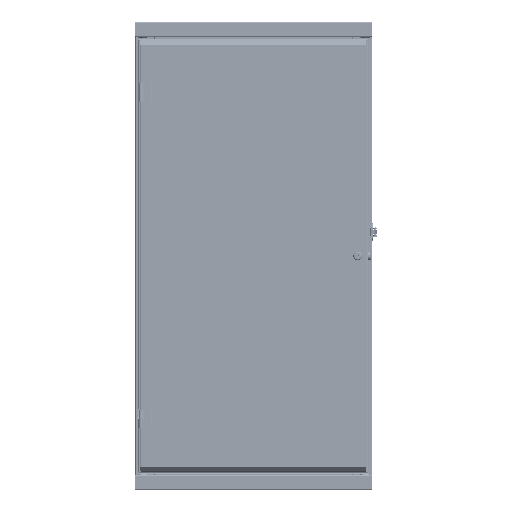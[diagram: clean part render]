
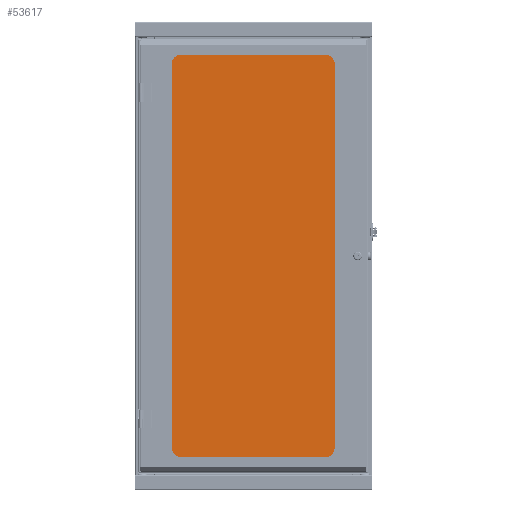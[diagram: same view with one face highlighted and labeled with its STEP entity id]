
A CAD part, front view. The second image highlights one B-rep face of the part: STEP entity #53617.
In plain terms, the highlighted planar face has unit normal (0, -1, 0).
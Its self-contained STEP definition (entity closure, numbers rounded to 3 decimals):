
#4329=LINE('',#90557,#9179);
#4333=LINE('',#90566,#9183);
#4336=LINE('',#90572,#9186);
#4339=LINE('',#90578,#9189);
#9179=VECTOR('',#71893,1000.);
#9183=VECTOR('',#71899,1000.);
#9186=VECTOR('',#71904,1000.);
#9189=VECTOR('',#71909,1000.);
#23628=ORIENTED_EDGE('',*,*,#32606,.T.);
#23629=ORIENTED_EDGE('',*,*,#32610,.T.);
#23630=ORIENTED_EDGE('',*,*,#32613,.T.);
#23631=ORIENTED_EDGE('',*,*,#32616,.T.);
#32606=EDGE_CURVE('',#38193,#38194,#4329,.T.);
#32610=EDGE_CURVE('',#38194,#38197,#4333,.T.);
#32613=EDGE_CURVE('',#38197,#38199,#4336,.T.);
#32616=EDGE_CURVE('',#38199,#38193,#4339,.T.);
#38193=VERTEX_POINT('',#90558);
#38194=VERTEX_POINT('',#90559);
#38197=VERTEX_POINT('',#90567);
#38199=VERTEX_POINT('',#90573);
#44836=EDGE_LOOP('',(#23628,#23629,#23630,#23631));
#48943=FACE_BOUND('',#44836,.T.);
#50964=PLANE('',#58737);
#53617=ADVANCED_FACE('',(#48943),#50964,.T.);
#58737=AXIS2_PLACEMENT_3D('',#90581,#71913,#71914);
#71893=DIRECTION('',(0.,0.,-1.));
#71899=DIRECTION('',(1.,0.,0.));
#71904=DIRECTION('',(0.,0.,1.));
#71909=DIRECTION('',(-1.,0.,0.));
#71913=DIRECTION('',(0.,-1.,0.));
#71914=DIRECTION('',(0.,0.,-1.));
#90557=CARTESIAN_POINT('',(-228.6,0.,552.45));
#90558=CARTESIAN_POINT('',(-228.6,0.,552.45));
#90559=CARTESIAN_POINT('',(-228.6,0.,-552.45));
#90566=CARTESIAN_POINT('',(-228.6,0.,-552.45));
#90567=CARTESIAN_POINT('',(228.6,0.,-552.45));
#90572=CARTESIAN_POINT('',(228.6,0.,-552.45));
#90573=CARTESIAN_POINT('',(228.6,0.,552.45));
#90578=CARTESIAN_POINT('',(228.6,0.,552.45));
#90581=CARTESIAN_POINT('',(-228.6,0.,-552.45));
